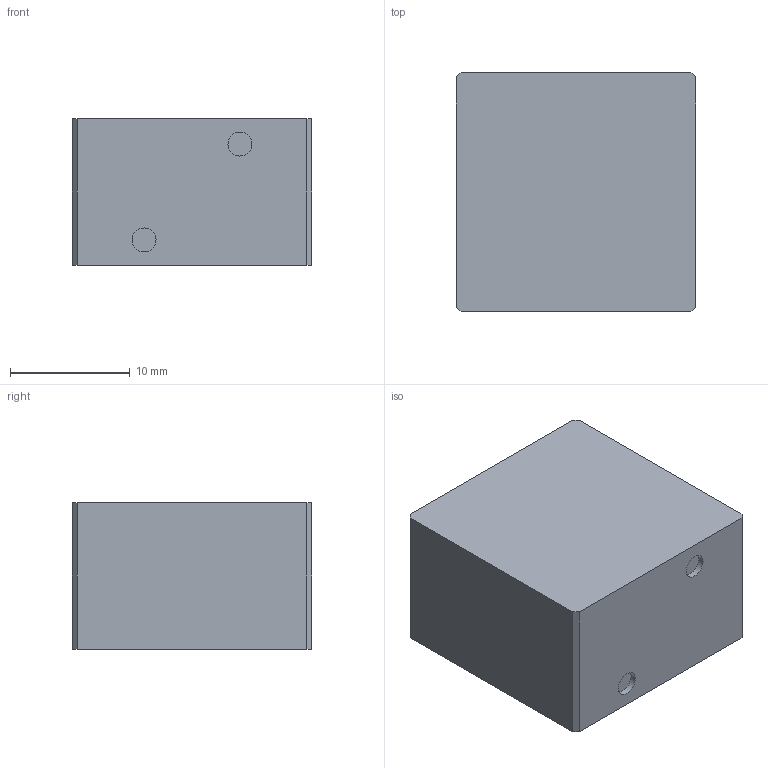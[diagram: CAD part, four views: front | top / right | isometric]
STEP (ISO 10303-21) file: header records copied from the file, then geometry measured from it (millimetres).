
FILE_DESCRIPTION(('Open CASCADE Model'),'2;1');
FILE_NAME('Open CASCADE Shape Model','2026-08-23T08:04:37',('Author'),( 'Open CASCADE'),'Open CASCADE STEP processor 7.9','Open CASCADE 7.9' ,'Unknown');
FILE_SCHEMA(('AUTOMOTIVE_DESIGN { 1 0 10303 214 1 1 1 1 }'));
Length unit declared in the file: millimetre
Products named in the file (2): =>[0:1:1:2]; COMPOUND
Assembly tree (1 placements, depth 2):
  =>[0:1:1:2]
    COMPOUND
Bounding box: 20 x 20 x 12.25 mm (x, y, z)
Volume: 4892.9 mm3; surface area: 1774.2 mm2
Topology: 1 solids, 1 shells, 14 faces, 30 edges, 20 vertices
Faces by surface type: plane 12, cylinder 2
Full cylindrical faces by diameter (mm): 2 x2
Entity records: 818 total; most frequent: CARTESIAN_POINT 138, DIRECTION 124, LINE 82, VECTOR 82, ORIENTED_EDGE 60, PCURVE 60, DEFINITIONAL_REPRESENTATION 60, EDGE_CURVE 30
